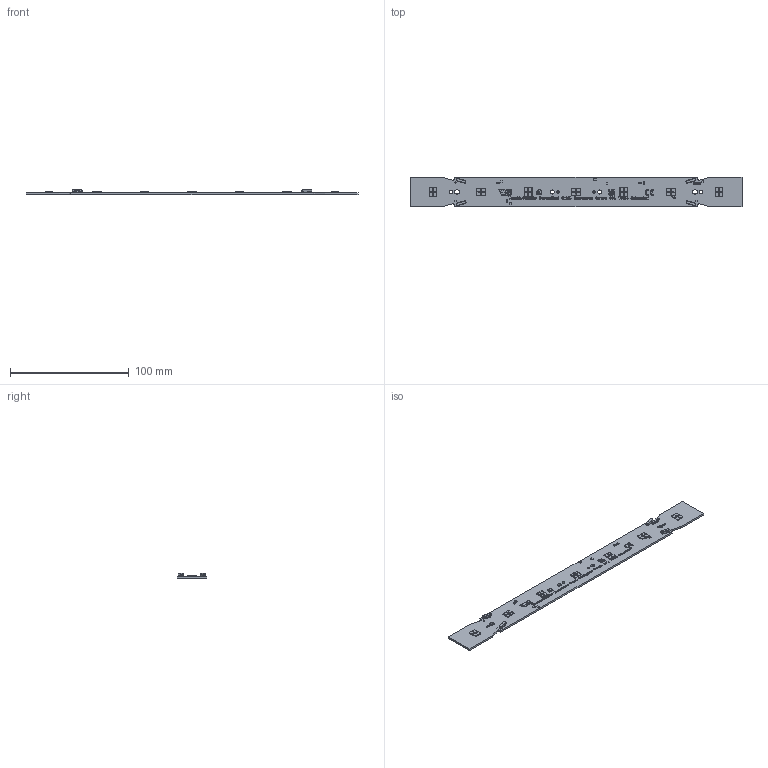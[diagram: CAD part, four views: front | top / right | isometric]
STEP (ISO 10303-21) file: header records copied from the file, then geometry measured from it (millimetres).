
FILE_DESCRIPTION((''),'2;1');
FILE_NAME('SKLOP_LOGO_DIODE_CON_R_WU-M-684_ASM','2021-12-02T14:55:16',('msavic'),(''),'CREO PARAMETRIC BY PTC INC, 2016510','CREO PARAMETRIC BY PTC INC, 2016510','');
FILE_SCHEMA(('AUTOMOTIVE_DESIGN { 1 0 10303 214 1 1 1 1 }'));
Products named in the file (15): BAZA_BLACK_WU-M-684; GERMANY__TXT0; VSO-LOGO-5MM_3_5_1; VSO-LOGO-5MM001_2_1_4_1; BUILT-IN_LED_MODULE-5MM004_2_6_; BUILT-IN_LED_MODULE-5MM003_2_5_; BUILT-IN_LED_MODULE-5MM002_2_4_; BUILT-IN_LED_MODULE-5MM001_2_5_; UKCA; CE-ZEICHEN-6MM001_2_7_1_1; CE-ZEICHEN-6MM_2_6_1_1; MCU_0805; 3DFILE_STW8A2PD_ASM_3_1_1_1_3; 2065-101_998-403_9; SKLOP_LOGO_DIODE_CON_R_WU-M-684_ASM
Assembly tree (53 placements, depth 2):
  SKLOP_LOGO_DIODE_CON_R_WU-M-684_ASM
    BAZA_BLACK_WU-M-684
    GERMANY__TXT0
    VSO-LOGO-5MM_3_5_1
    VSO-LOGO-5MM001_2_1_4_1
    BUILT-IN_LED_MODULE-5MM004_2_6_
    BUILT-IN_LED_MODULE-5MM003_2_5_
    BUILT-IN_LED_MODULE-5MM002_2_4_
    BUILT-IN_LED_MODULE-5MM001_2_5_  x2
    UKCA
    CE-ZEICHEN-6MM001_2_7_1_1
    CE-ZEICHEN-6MM_2_6_1_1
    MCU_0805  x9
    3DFILE_STW8A2PD_ASM_3_1_1_1_3  x28
    2065-101_998-403_9  x4
Bounding box: 279 x 25 x 4.3 mm (x, y, z)
Volume: 11040.8 mm3; surface area: 16375.3 mm2
Topology: 28 solids, 56 shells, 5859 faces, 17183 edges, 11598 vertices
Faces by surface type: plane 4911, cylinder 938, extrusion 10
Entity records: 118776 total; most frequent: CARTESIAN_POINT 17715, ORIENTED_EDGE 17022, DIRECTION 15268, EDGE_CURVE 8511, VECTOR 7849, LINE 7839, VERTEX_POINT 5685, AXIS2_PLACEMENT_3D 3687
